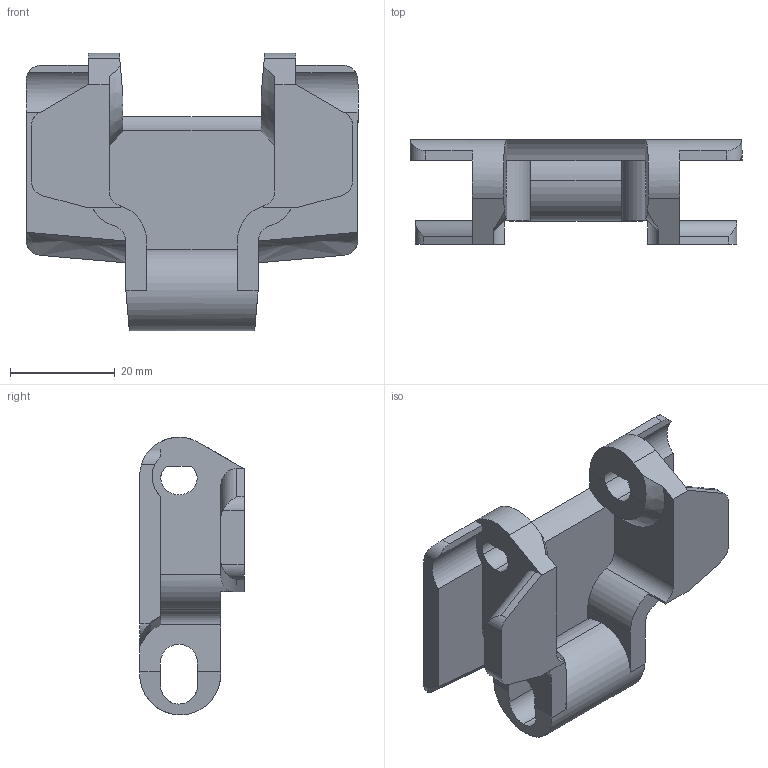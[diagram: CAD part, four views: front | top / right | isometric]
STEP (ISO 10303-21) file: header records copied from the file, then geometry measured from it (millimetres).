
FILE_DESCRIPTION (( 'STEP AP214' ), '1' );
FILE_NAME ('880TAB-K250.STEP', '2011-04-14T11:45:54', ( '.' ), ( '' ), 'SwSTEP 2.0', 'SolidWorks 2010', '' );
FILE_SCHEMA (( 'AUTOMOTIVE_DESIGN' ));
Length unit declared in the file: millimetre
Products named in the file (1): 880TAB-K250
Bounding box: 63.5 x 20 x 53.1 mm (x, y, z)
Volume: 17407.4 mm3; surface area: 10417.4 mm2
Topology: 1 solids, 1 shells, 94 faces, 283 edges, 187 vertices
Faces by surface type: plane 46, cylinder 43, cone 3, bspline 2
Entity records: 3326 total; most frequent: CARTESIAN_POINT 787, ORIENTED_EDGE 566, DIRECTION 500, EDGE_CURVE 283, VERTEX_POINT 187, VECTOR 168, LINE 168, AXIS2_PLACEMENT_3D 166
